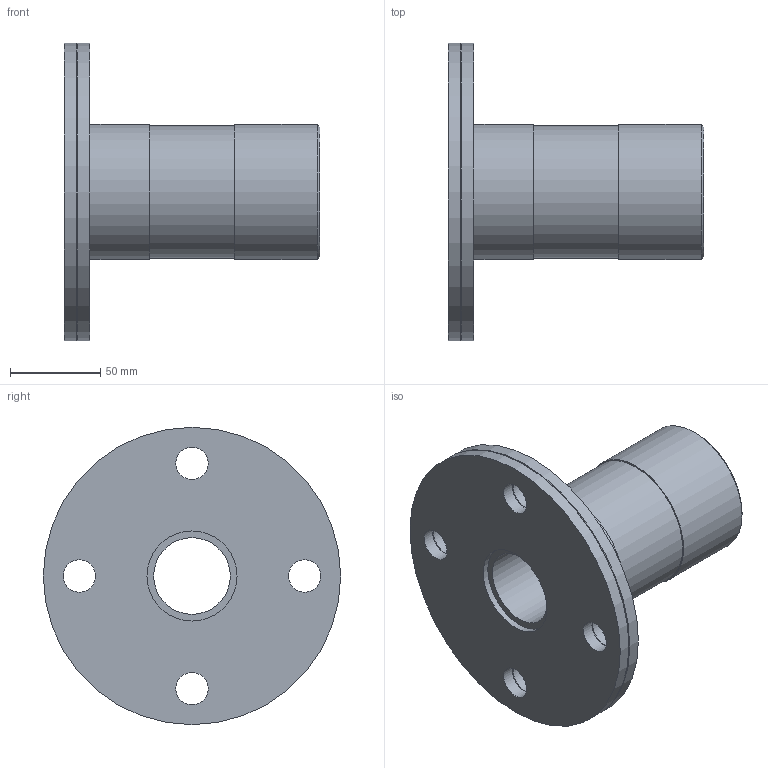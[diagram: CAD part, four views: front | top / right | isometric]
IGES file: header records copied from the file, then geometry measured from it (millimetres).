
Global section: file name: 872306075020_182306075020.ipt; native system: Autodesk Inventor 2015; preprocessor: unknown; author: Кирилл,,11,0; organization: 20170224.180708; date: 20170608.042657; units: millimetre
Bounding box: 142 x 165 x 165 mm (x, y, z)
Volume: 620148.5 mm3; surface area: 101572 mm2
Topology: 1 solids, 1 shells, 34 faces, 91 edges, 64 vertices
Faces by surface type: revolution 19, plane 7, cylinder 5, cone 3
Full cylindrical faces by diameter (mm): 73.5 x1, 75 x2, 165 x2
